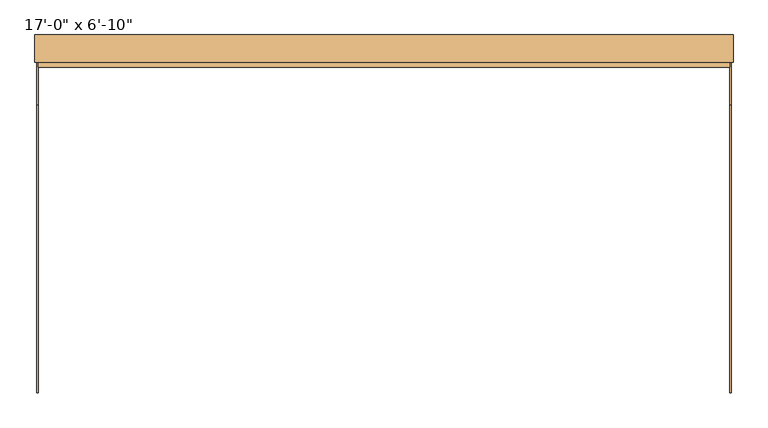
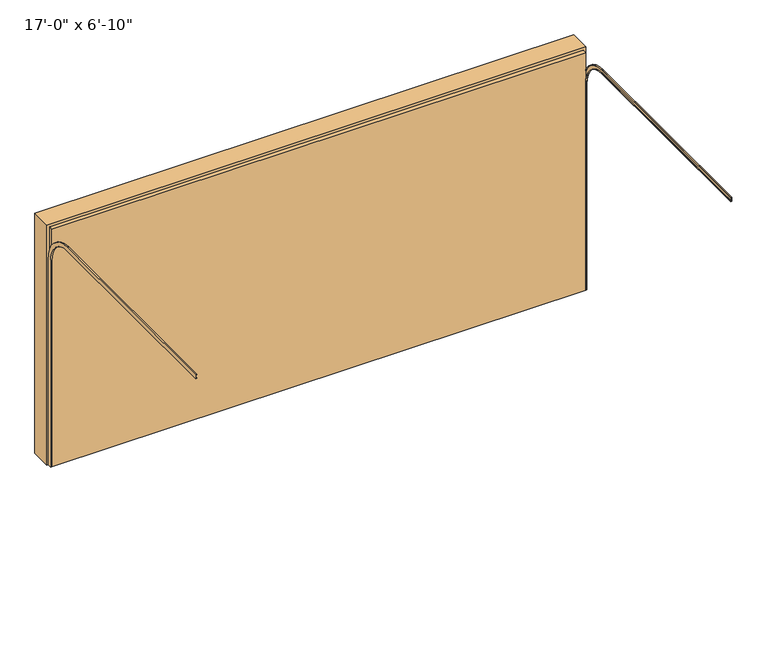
"""IFC4 building model written with IfcOpenShell, lengths in millimetres: door geometry."""

from ifc_helpers import new_model, si_unit, frame, origin, origin_with_axes, place, context, project, spatial, polyline, circle_curve, outline, extrude, source, transform, mapped, element, save
from ifc_brep_helpers import plane_surface, cylinder_surface, revolved_surface, advanced_brep


def door_b42d4ec2(model_context):
    return source(origin(), model_context, "Body", "SolidModel", [
        advanced_brep(
        [(2603.5, -144.775, 0.0), (2590.8, -144.775, 0.0), (2590.8, -141.6, 0.0), (2600.325, -141.6, 0.0), (2600.325, -107.975, 0.0), (2590.8, -107.975, 0.0), (2590.8, -104.775, 0.0), (2603.5, -104.775, 0.0), (2603.5, -144.775, 2107.8), (2590.8, -144.775, 2107.8), (2590.8, -424.175, 2387.2), (2590.8, -2583.175, 2387.2), (2590.8, -2583.175, 2390.375), (2590.8, -424.175, 2390.375), (2590.8, -141.6, 2107.8), (2600.325, -141.6, 2107.8), (2600.325, -424.175, 2390.375), (2600.325, -2583.175, 2390.375), (2600.325, -2583.175, 2424.0), (2600.325, -424.175, 2424.0), (2600.325, -107.975, 2107.8), (2590.8, -107.975, 2107.8), (2590.8, -424.175, 2424.0), (2590.8, -2583.175, 2424.0), (2590.8, -2583.175, 2427.2), (2590.8, -424.175, 2427.2), (2590.8, -104.775, 2107.8), (2603.5, -104.775, 2107.8), (2603.5, -424.175, 2427.2), (2603.5, -2583.175, 2427.2), (2603.5, -2583.175, 2387.2), (2603.5, -424.175, 2387.2)],
        [
            (0, 1),
            (1, 2),
            (2, 3),
            (3, 4),
            (4, 5),
            (5, 6),
            (6, 7),
            (7, 0),
            (0, 8),
            (8, 9),
            (9, 1),
            (9, 10, circle_curve(frame((2590.8, -424.175, 2107.8), z_axis=(1.0, 0.0, 0.0), x_axis=(0.0, 1.0, 0.0)), 279.4)),
            (10, 11),
            (11, 12),
            (12, 13),
            (13, 14, circle_curve(frame((2590.8, -424.175, 2107.8), z_axis=(-1.0, 0.0, 0.0), x_axis=(0.0, 1.0, 0.0)), 282.575)),
            (14, 2),
            (14, 15),
            (15, 3),
            (15, 16, circle_curve(frame((2600.325, -424.175, 2107.8), z_axis=(1.0, 0.0, 0.0), x_axis=(0.0, 1.0, 0.0)), 282.575)),
            (16, 17),
            (17, 18),
            (18, 19),
            (19, 20, circle_curve(frame((2600.325, -424.175, 2107.8), z_axis=(-1.0, 0.0, 0.0), x_axis=(0.0, 1.0, 0.0)), 316.2)),
            (20, 4),
            (20, 21),
            (21, 5),
            (21, 22, circle_curve(frame((2590.8, -424.175, 2107.8), z_axis=(1.0, 0.0, 0.0), x_axis=(0.0, 1.0, 0.0)), 316.2)),
            (22, 23),
            (23, 24),
            (24, 25),
            (25, 26, circle_curve(frame((2590.8, -424.175, 2107.8), z_axis=(-1.0, 0.0, 0.0), x_axis=(0.0, 1.0, 0.0)), 319.4)),
            (26, 6),
            (26, 27),
            (27, 7),
            (27, 28, circle_curve(frame((2603.5, -424.175, 2107.8), z_axis=(1.0, 0.0, 0.0), x_axis=(0.0, 1.0, 0.0)), 319.4)),
            (28, 29),
            (29, 30),
            (30, 31),
            (31, 8, circle_curve(frame((2603.5, -424.175, 2107.8), z_axis=(-1.0, 0.0, 0.0), x_axis=(0.0, 1.0, 0.0)), 279.4)),
            (31, 10),
            (13, 16),
            (19, 22),
            (25, 28),
            (29, 24),
            (23, 18),
            (17, 12),
            (11, 30),
        ],
        [
            plane_surface(frame((0.0, -144.775, 0.0), z_axis=(0.0, 0.0, -1.0), x_axis=(1.0, 0.0, 0.0))),
            plane_surface(frame((2603.5, -144.775, 0.0), z_axis=(0.0, -1.0, 0.0), x_axis=(0.0, 0.0, 1.0))),
            plane_surface(frame((2590.8, -144.775, 0.0), z_axis=(-1.0, 0.0, 0.0), x_axis=(0.0, 0.0, 1.0))),
            plane_surface(frame((2590.8, -141.6, 0.0), z_axis=(0.0, 1.0, 0.0), x_axis=(0.0, 0.0, 1.0))),
            plane_surface(frame((2600.325, -141.6, 0.0), z_axis=(-1.0, 0.0, 0.0), x_axis=(0.0, 0.0, 1.0))),
            plane_surface(frame((2600.325, -107.975, 0.0), z_axis=(0.0, -1.0, 0.0), x_axis=(0.0, 0.0, 1.0))),
            plane_surface(frame((2590.8, -107.975, 0.0), z_axis=(-1.0, 0.0, 0.0), x_axis=(0.0, 0.0, 1.0))),
            plane_surface(frame((2590.8, -104.775, 0.0), z_axis=(0.0, 1.0, 0.0), x_axis=(0.0, 0.0, 1.0))),
            plane_surface(frame((2603.5, -104.775, 0.0), z_axis=(1.0, 0.0, 0.0), x_axis=(0.0, 0.0, 1.0))),
            revolved_surface(polyline([(2603.5, -144.77500000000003, 2107.8), (2590.8, -144.77500000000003, 2107.8)]), (0.0, -424.175, 2107.8), (1.0, 0.0, 0.0)),
            cylinder_surface(frame((0.0, -424.175, 2107.8), z_axis=(1.0, 0.0, 0.0), x_axis=(0.0, 1.0, 0.0)), 282.575),
            revolved_surface(polyline([(2600.325, -107.97500000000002, 2107.8), (2590.8, -107.97500000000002, 2107.8)]), (0.0, -424.175, 2107.8), (1.0, 0.0, 0.0)),
            cylinder_surface(frame((0.0, -424.175, 2107.8), z_axis=(1.0, 0.0, 0.0), x_axis=(0.0, 1.0, 0.0)), 319.4),
            plane_surface(frame((0.0, -2583.175, 2387.2), z_axis=(0.0, -1.0, 0.0), x_axis=(1.0, 0.0, 0.0))),
            plane_surface(frame((2603.5, -424.175, 2387.2), z_axis=(0.0, 0.0, -1.0), x_axis=(0.0, -1.0, 0.0))),
            plane_surface(frame((2590.8, -424.175, 2390.375), z_axis=(0.0, 0.0, 1.0), x_axis=(0.0, -1.0, 0.0))),
            plane_surface(frame((2600.325, -424.175, 2424.0), z_axis=(0.0, 0.0, -1.0), x_axis=(0.0, -1.0, 0.0))),
            plane_surface(frame((2590.8, -424.175, 2427.2), z_axis=(0.0, 0.0, 1.0), x_axis=(0.0, -1.0, 0.0))),
        ],
        [
            (0, [[1, 2, 3, 4, 5, 6, 7, 8]]),
            (1, [[-1, 9, 10, 11]]),
            (2, [[-2, -11, 12, 13, 14, 15, 16, 17]]),
            (3, [[-3, -17, 18, 19]]),
            (4, [[-4, -19, 20, 21, 22, 23, 24, 25]]),
            (5, [[-5, -25, 26, 27]]),
            (6, [[-6, -27, 28, 29, 30, 31, 32, 33]]),
            (7, [[-7, -33, 34, 35]]),
            (8, [[-8, -35, 36, 37, 38, 39, 40, -9]]),
            (9, [[-12, -10, -40, 41]]),
            (10, [[-20, -18, -16, 42]]),
            (11, [[-28, -26, -24, 43]]),
            (12, [[-36, -34, -32, 44]]),
            (13, [[-38, 45, -30, 46, -22, 47, -14, 48]]),
            (14, [[-41, -39, -48, -13]]),
            (15, [[-42, -15, -47, -21]]),
            (16, [[-43, -23, -46, -29]]),
            (17, [[-44, -31, -45, -37]]),
        ],
    ),
        advanced_brep(
        [(-2603.5, -144.775, 0.0), (-2603.5, -104.775, 0.0), (-2590.8, -104.775, 0.0), (-2590.8, -107.975, 0.0), (-2600.325, -107.975, 0.0), (-2600.325, -141.6, 0.0), (-2590.8, -141.6, 0.0), (-2590.8, -144.775, 0.0), (-2603.5, -144.775, 2107.8), (-2603.5, -424.175, 2387.2), (-2603.5, -2583.175, 2387.2), (-2603.5, -2583.175, 2427.2), (-2603.5, -424.175, 2427.2), (-2603.5, -104.775, 2107.8), (-2590.8, -104.775, 2107.8), (-2590.8, -424.175, 2427.2), (-2590.8, -2583.175, 2427.2), (-2590.8, -2583.175, 2424.0), (-2590.8, -424.175, 2424.0), (-2590.8, -107.975, 2107.8), (-2600.325, -107.975, 2107.8), (-2600.325, -424.175, 2424.0), (-2600.325, -2583.175, 2424.0), (-2600.325, -2583.175, 2390.375), (-2600.325, -424.175, 2390.375), (-2600.325, -141.6, 2107.8), (-2590.8, -141.6, 2107.8), (-2590.8, -424.175, 2390.375), (-2590.8, -2583.175, 2390.375), (-2590.8, -2583.175, 2387.2), (-2590.8, -424.175, 2387.2), (-2590.8, -144.775, 2107.8)],
        [
            (0, 1),
            (1, 2),
            (2, 3),
            (3, 4),
            (4, 5),
            (5, 6),
            (6, 7),
            (7, 0),
            (0, 8),
            (8, 9, circle_curve(frame((-2603.5, -424.175, 2107.8), z_axis=(1.0, 0.0, 0.0), x_axis=(0.0, 1.0, 0.0)), 279.4)),
            (9, 10),
            (10, 11),
            (11, 12),
            (12, 13, circle_curve(frame((-2603.5, -424.175, 2107.8), z_axis=(-1.0, 0.0, 0.0), x_axis=(0.0, 1.0, 0.0)), 319.4)),
            (13, 1),
            (13, 14),
            (14, 2),
            (14, 15, circle_curve(frame((-2590.8, -424.175, 2107.8), z_axis=(1.0, 0.0, 0.0), x_axis=(0.0, 1.0, 0.0)), 319.4)),
            (15, 16),
            (16, 17),
            (17, 18),
            (18, 19, circle_curve(frame((-2590.8, -424.175, 2107.8), z_axis=(-1.0, 0.0, 0.0), x_axis=(0.0, 1.0, 0.0)), 316.2)),
            (19, 3),
            (19, 20),
            (20, 4),
            (20, 21, circle_curve(frame((-2600.325, -424.175, 2107.8), z_axis=(1.0, 0.0, 0.0), x_axis=(0.0, 1.0, 0.0)), 316.2)),
            (21, 22),
            (22, 23),
            (23, 24),
            (24, 25, circle_curve(frame((-2600.325, -424.175, 2107.8), z_axis=(-1.0, 0.0, 0.0), x_axis=(0.0, 1.0, 0.0)), 282.575)),
            (25, 5),
            (25, 26),
            (26, 6),
            (26, 27, circle_curve(frame((-2590.8, -424.175, 2107.8), z_axis=(1.0, 0.0, 0.0), x_axis=(0.0, 1.0, 0.0)), 282.575)),
            (27, 28),
            (28, 29),
            (29, 30),
            (30, 31, circle_curve(frame((-2590.8, -424.175, 2107.8), z_axis=(-1.0, 0.0, 0.0), x_axis=(0.0, 1.0, 0.0)), 279.4)),
            (31, 7),
            (31, 8),
            (12, 15),
            (18, 21),
            (24, 27),
            (30, 9),
            (10, 29),
            (28, 23),
            (22, 17),
            (16, 11),
        ],
        [
            plane_surface(frame((0.0, -144.775, 0.0), z_axis=(0.0, 0.0, -1.0), x_axis=(1.0, 0.0, 0.0))),
            plane_surface(frame((-2603.5, -144.775, 0.0), z_axis=(-1.0, 0.0, 0.0), x_axis=(0.0, 0.0, 1.0))),
            plane_surface(frame((-2603.5, -104.775, 0.0), z_axis=(0.0, 1.0, 0.0), x_axis=(0.0, 0.0, 1.0))),
            plane_surface(frame((-2590.8, -104.775, 0.0), z_axis=(1.0, 0.0, 0.0), x_axis=(0.0, 0.0, 1.0))),
            plane_surface(frame((-2590.8, -107.975, 0.0), z_axis=(0.0, -1.0, 0.0), x_axis=(0.0, 0.0, 1.0))),
            plane_surface(frame((-2600.325, -107.975, 0.0), z_axis=(1.0, 0.0, 0.0), x_axis=(0.0, 0.0, 1.0))),
            plane_surface(frame((-2600.325, -141.6, 0.0), z_axis=(0.0, 1.0, 0.0), x_axis=(0.0, 0.0, 1.0))),
            plane_surface(frame((-2590.8, -141.6, 0.0), z_axis=(1.0, 0.0, 0.0), x_axis=(0.0, 0.0, 1.0))),
            plane_surface(frame((-2590.8, -144.775, 0.0), z_axis=(0.0, -1.0, 0.0), x_axis=(0.0, 0.0, 1.0))),
            cylinder_surface(frame((0.0, -424.175, 2107.8), z_axis=(1.0, 0.0, 0.0), x_axis=(0.0, 1.0, 0.0)), 319.4),
            revolved_surface(polyline([(-2590.8, -107.97500000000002, 2107.8), (-2600.325, -107.97500000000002, 2107.8)]), (0.0, -424.175, 2107.8), (1.0, 0.0, 0.0)),
            cylinder_surface(frame((0.0, -424.175, 2107.8), z_axis=(1.0, 0.0, 0.0), x_axis=(0.0, 1.0, 0.0)), 282.575),
            revolved_surface(polyline([(-2590.8, -144.77500000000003, 2107.8), (-2603.5, -144.77500000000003, 2107.8)]), (0.0, -424.175, 2107.8), (1.0, 0.0, 0.0)),
            plane_surface(frame((0.0, -2583.175, 2387.2), z_axis=(0.0, -1.0, 0.0), x_axis=(1.0, 0.0, 0.0))),
            plane_surface(frame((-2603.5, -424.175, 2427.2), z_axis=(0.0, 0.0, 1.0), x_axis=(0.0, -1.0, 0.0))),
            plane_surface(frame((-2590.8, -424.175, 2424.0), z_axis=(0.0, 0.0, -1.0), x_axis=(0.0, -1.0, 0.0))),
            plane_surface(frame((-2600.325, -424.175, 2390.375), z_axis=(0.0, 0.0, 1.0), x_axis=(0.0, -1.0, 0.0))),
            plane_surface(frame((-2590.8, -424.175, 2387.2), z_axis=(0.0, 0.0, -1.0), x_axis=(0.0, -1.0, 0.0))),
        ],
        [
            (0, [[1, 2, 3, 4, 5, 6, 7, 8]]),
            (1, [[-1, 9, 10, 11, 12, 13, 14, 15]]),
            (2, [[-2, -15, 16, 17]]),
            (3, [[-3, -17, 18, 19, 20, 21, 22, 23]]),
            (4, [[-4, -23, 24, 25]]),
            (5, [[-5, -25, 26, 27, 28, 29, 30, 31]]),
            (6, [[-6, -31, 32, 33]]),
            (7, [[-7, -33, 34, 35, 36, 37, 38, 39]]),
            (8, [[-8, -39, 40, -9]]),
            (9, [[-18, -16, -14, 41]]),
            (10, [[-26, -24, -22, 42]]),
            (11, [[-34, -32, -30, 43]]),
            (12, [[-10, -40, -38, 44]]),
            (13, [[45, -36, 46, -28, 47, -20, 48, -12]]),
            (14, [[-41, -13, -48, -19]]),
            (15, [[-42, -21, -47, -27]]),
            (16, [[-43, -29, -46, -35]]),
            (17, [[-44, -37, -45, -11]]),
        ],
    ),
        extrude(outline(polyline([(0.0, 2590.8), (0.0, 2615.8), (2463.4, 2615.8), (2463.4, -2615.8), (0.0, -2615.8), (0.0, -2590.8), (2438.4, -2590.8), (2438.4, 2590.8), (0.0, 2590.8)])), frame((0.0, -104.775, 0.0), z_axis=(0.0, 1.0, 0.0), x_axis=(0.0, 0.0, 1.0)), (0.0, 0.0, 1.0), 203.2),
        extrude(outline(polyline([(2590.8, -144.775), (-2590.8, -144.775), (-2590.8, -104.775), (2590.8, -104.775), (2590.8, -144.775)])), origin_with_axes(), (0.0, 0.0, 1.0), 2438.4),
    ])


if __name__ == "__main__":
    model = new_model("IFC4")
    model_context = context("Model", 3, world=origin())
    ifc_project = project(units=[si_unit("LENGTHUNIT", "METRE", prefix="MILLI")], contexts=[model_context])
    site = spatial("IfcSite", under=ifc_project)
    building = spatial("IfcBuilding", under=site)
    placement = place(None, origin())
    door_shape = door_b42d4ec2(model_context)
    element("IfcDoor", 1, ObjectType="Planitar - Garage Door : 17'-0\" x 6'-10\"", at=placement, inside=building, context=model_context, shape_type="MappedRepresentation", body=[
        mapped(door_shape, transform((0.0, 0.0, 0.0), x_axis=(1.0, 0.0, 0.0), y_axis=(0.0, 1.0, 0.0), z_axis=(0.0, 0.0, 1.0))),
    ])
    save(model, "model.ifc")
